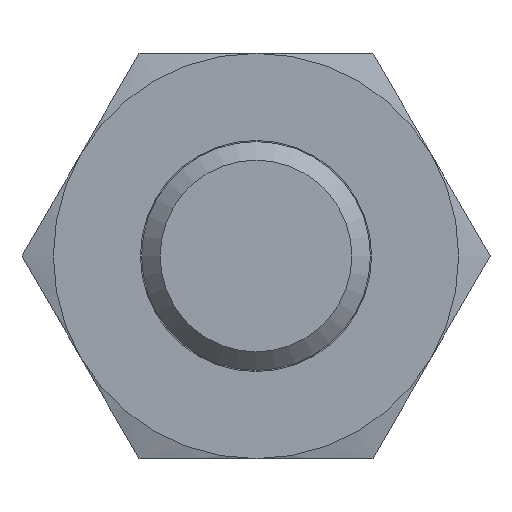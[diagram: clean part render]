
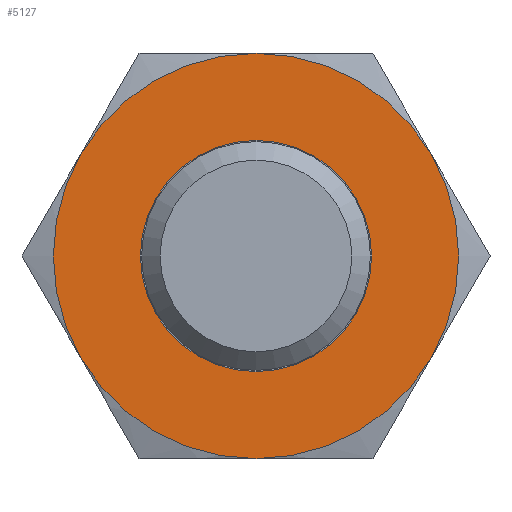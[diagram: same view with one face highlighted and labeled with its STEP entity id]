
A CAD part, left-side view. The second image highlights one B-rep face of the part: STEP entity #5127.
In plain terms, the highlighted planar face has unit normal (-1, 0, 0).
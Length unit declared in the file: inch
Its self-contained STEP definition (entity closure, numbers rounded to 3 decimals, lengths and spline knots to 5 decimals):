
#1526=CARTESIAN_POINT('',(-0.2475,0.,0.4375));
#1527=VERTEX_POINT('',#1526);
#1528=CARTESIAN_POINT('',(-0.2475,0.0,0.0));
#1529=DIRECTION('',(-1.0,0.0,0.0));
#1530=DIRECTION('',(0.0,0.0,-1.0));
#1531=AXIS2_PLACEMENT_3D('',#1528,#1529,#1530);
#1532=CIRCLE('',#1531,0.4375);
#1533=EDGE_CURVE('',#1527,#1527,#1532,.T.);
#1774=CARTESIAN_POINT('',(-0.2475,-0.2495,0.));
#1775=VERTEX_POINT('',#1774);
#1776=CARTESIAN_POINT('',(-0.2475,0.0,0.0));
#1777=DIRECTION('',(-1.0,0.0,0.0));
#1778=DIRECTION('',(0.0,1.0,0.0));
#1779=AXIS2_PLACEMENT_3D('',#1776,#1777,#1778);
#1780=CIRCLE('',#1779,0.2495);
#1781=EDGE_CURVE('',#1775,#1775,#1780,.T.);
#5116=CARTESIAN_POINT('',(-0.2475,0.4375,0.0));
#5117=DIRECTION('',(-1.0,0.0,0.0));
#5118=DIRECTION('',(0.0,0.0,1.0));
#5119=AXIS2_PLACEMENT_3D('',#5116,#5117,#5118);
#5120=PLANE('',#5119);
#5121=ORIENTED_EDGE('',*,*,#1533,.T.);
#5122=EDGE_LOOP('',(#5121));
#5123=FACE_OUTER_BOUND('',#5122,.T.);
#5124=ORIENTED_EDGE('',*,*,#1781,.F.);
#5125=EDGE_LOOP('',(#5124));
#5126=FACE_BOUND('',#5125,.T.);
#5127=ADVANCED_FACE('',(#5123,#5126),#5120,.T.);
